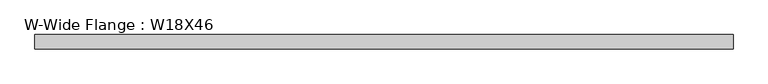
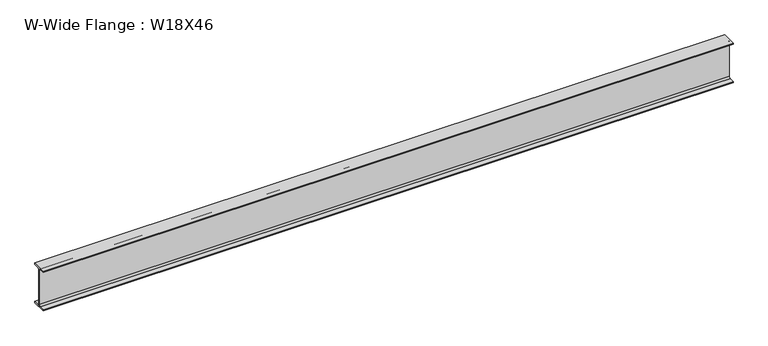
"""IFC4 building model written with IfcOpenShell, lengths in millimetres: beam geometry, W-Wide Flange : W18X46."""

from ifc_helpers import new_model, si_unit, point, frame, frame_2d, origin, place, context, project, spatial, polyline, circle_curve, trimmed, segment, composite_curve, outline, extrude, source, transform, mapped, element, save


def w_wide_flange_w18x46_8f6cf0fd(model_context):
    return source(origin(), model_context, "Body", "SweptSolid", [
        extrude(outline(composite_curve([segment(polyline([(76.962, -214.503), (76.962, -229.87), (-76.962, -229.87), (-76.962, -214.503), (-20.955, -214.503)]), True, "CONTINUOUS"), segment(trimmed(circle_curve(frame_2d((-20.955, -198.12)), 16.383), [point((-20.955, -214.503))], [point((-4.572, -198.12))], True, "CARTESIAN"), True, "CONTINUOUS"), segment(polyline([(-4.572, -198.12), (-4.572, 198.12)]), True, "CONTINUOUS"), segment(trimmed(circle_curve(frame_2d((-20.955, 198.12)), 16.383), [point((-4.572, 198.12))], [point((-20.955, 214.503))], True, "CARTESIAN"), True, "CONTINUOUS"), segment(polyline([(-20.955, 214.503), (-76.962, 214.503), (-76.962, 229.87), (76.962, 229.87), (76.962, 214.503), (20.955, 214.503)]), True, "CONTINUOUS"), segment(trimmed(circle_curve(frame_2d((20.955, 198.12)), 16.383), [point((20.955, 214.503))], [point((4.572, 198.12))], True, "CARTESIAN"), True, "CONTINUOUS"), segment(polyline([(4.572, 198.12), (4.572, -198.12)]), True, "CONTINUOUS"), segment(trimmed(circle_curve(frame_2d((20.955, -198.12)), 16.383), [point((4.572, -198.12))], [point((20.955, -214.503))], True, "CARTESIAN"), True, "CONTINUOUS"), segment(polyline([(20.955, -214.503), (76.962, -214.503)]), True, "CONTINUOUS")], self_intersect=False)), frame((-3764.7066406, 0.0, 0.0), z_axis=(1.0, 0.0, 0.0), x_axis=(0.0, 1.0, 0.0)), (0.0, 0.0, 1.0), 7529.4132813),
    ])


if __name__ == "__main__":
    model = new_model("IFC4")
    model_context = context("Model", 3, world=origin())
    ifc_project = project(units=[si_unit("LENGTHUNIT", "METRE", prefix="MILLI")], contexts=[model_context])
    site = spatial("IfcSite", under=ifc_project)
    building = spatial("IfcBuilding", under=site)
    placement = place(None, origin())
    w_wide_flange_w18x46_shape = w_wide_flange_w18x46_8f6cf0fd(model_context)
    element("IfcBeam", 1, ObjectType="W-Wide Flange : W18X46", at=placement, inside=building, context=model_context, shape_type="MappedRepresentation", body=[
        mapped(w_wide_flange_w18x46_shape, transform((0.0, 0.0, 0.0), x_axis=(1.0, 0.0, 0.0), y_axis=(0.0, 1.0, 0.0), z_axis=(0.0, 0.0, 1.0))),
    ])
    save(model, "model.ifc")
